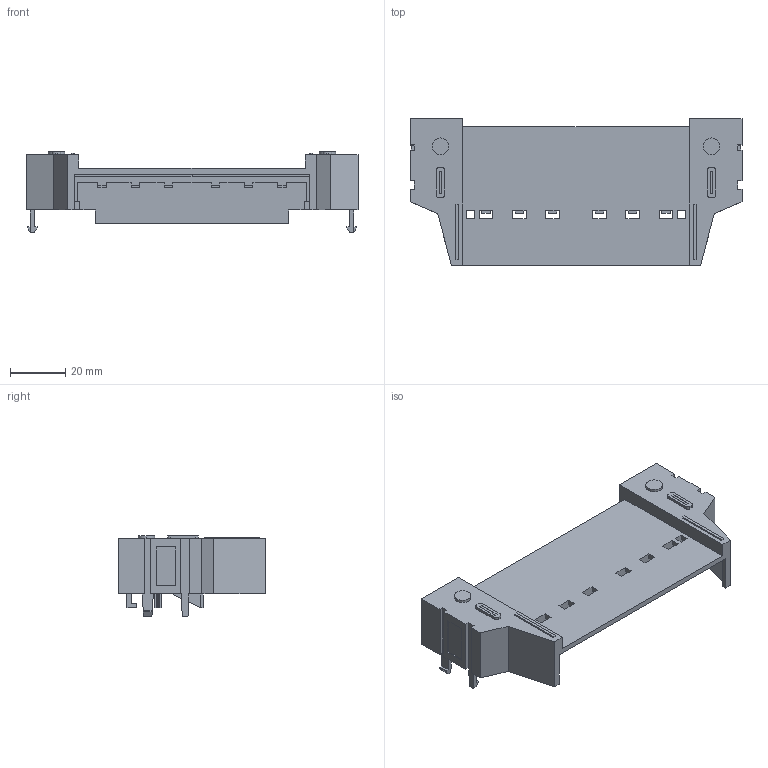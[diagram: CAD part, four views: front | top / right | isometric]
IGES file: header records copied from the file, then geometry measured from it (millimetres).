
Start section: Elysium IGES Interface
Global section: file name: 71HC:\Documents and Settings\pt_nishiyama\デスクトップ\Sample1_out_out.igs; native system: Unknown; preprocessor: Unknown; author: CADDoctor; organization: ELYSIUM; date: 20131119.173819; units: millimetre
Bounding box: 120 x 53 x 29 mm (x, y, z)
Volume: 25730.6 mm3; surface area: 33157.3 mm2
Topology: 1 solids, 1 shells, 461 faces, 1311 edges, 866 vertices
Faces by surface type: bspline 461
